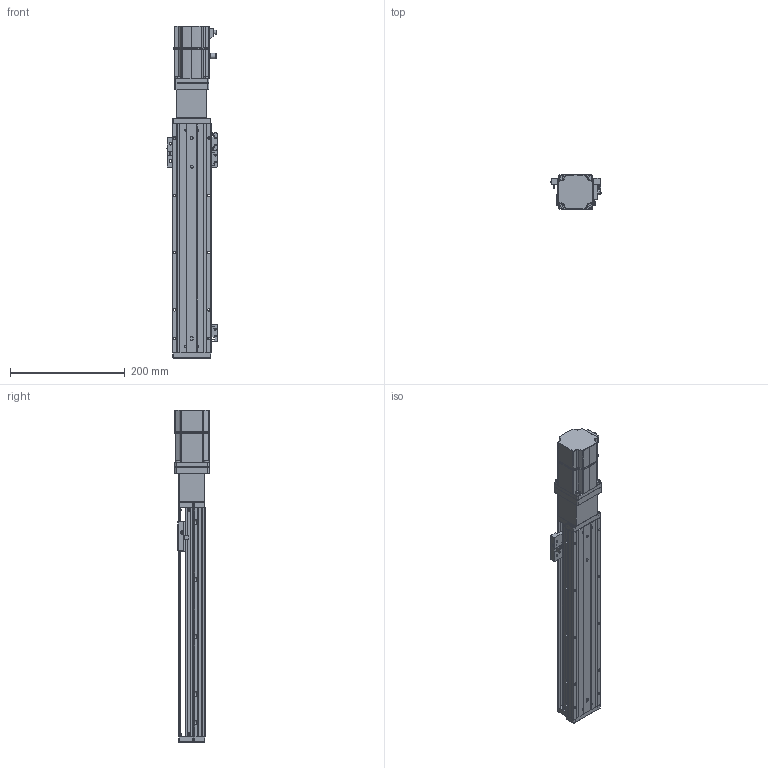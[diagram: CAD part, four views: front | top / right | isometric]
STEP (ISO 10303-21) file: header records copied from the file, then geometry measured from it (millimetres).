
FILE_DESCRIPTION (( 'STEP AP203' ), '1' );
FILE_NAME ('KTHA60-300-BC-M20-C4L.step', '2022-12-16T01:28:39', ( '微软用户' ), ( '微软中国' ), 'SwSTEP 2.0', 'SolidWorks 2020', '' );
FILE_SCHEMA (( 'CONFIG_CONTROL_DESIGN' ));
Length unit declared in the file: millimetre
Products named in the file (18): _X2_4E0983F1_X0_200W_1; GBT 70.1-M3℅6; KTHA60-300-BC-M20-C4L; KTHA60-001_400; CTHA60-016; GBT77-2000M3-3; KTHA60-004; CTHA60-013; KTHA60-005; CTHA60-017; CTHA60-027; GB¨uT 70.2-M3¡Á5_M3¡Á6; CTHA60-021; KTHA60-002; GBT 70.3-M3℅6; GBT 70.1-M4×16; CTHA60-006-3_M20B; EE_SX911P_R
Assembly tree (50 placements, depth 2):
  KTHA60-300-BC-M20-C4L
    KTHA60-001_400
    KTHA60-004
    KTHA60-005
    GB¨uT 70.2-M3¡Á5_M3¡Á6  x6
    GBT 70.3-M3℅6  x6
    EE_SX911P_R  x3
    CTHA60-017  x3
    CTHA60-021  x2
    GBT 70.1-M4×16  x8
    GBT77-2000M3-3  x6
    GBT 70.1-M3℅6  x6
    CTHA60-016  x2
    CTHA60-013
    CTHA60-027
    KTHA60-002
    CTHA60-006-3_M20B
    _X2_4E0983F1_X0_200W_1
Bounding box: 87.72 x 62.42 x 579.7 mm (x, y, z)
Volume: 1189251.4 mm3; surface area: 278647.6 mm2
Topology: 53 solids, 53 shells, 2275 faces, 5371 edges, 3284 vertices
Faces by surface type: plane 1232, cylinder 582, cone 296, torus 80, bspline 69, sphere 16
Entity records: 39539 total; most frequent: CARTESIAN_POINT 7680, DIRECTION 6158, ORIENTED_EDGE 5946, EDGE_CURVE 2973, AXIS2_PLACEMENT_3D 2115, LINE 1928, VECTOR 1928, VERTEX_POINT 1851
